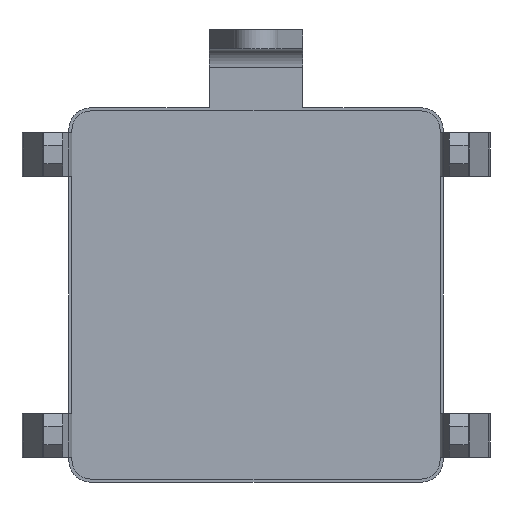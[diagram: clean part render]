
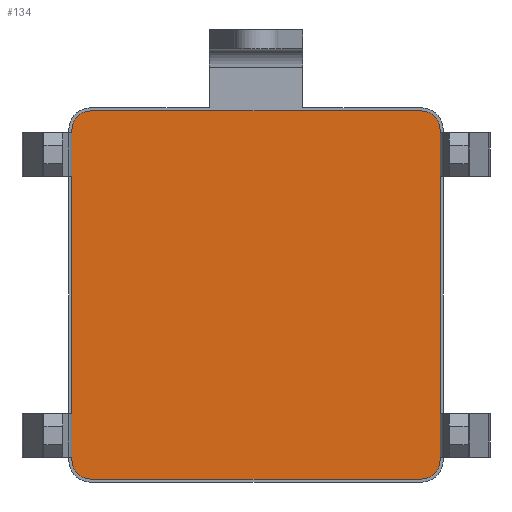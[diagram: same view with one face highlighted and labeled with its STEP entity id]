
A CAD part, front view. The second image highlights one B-rep face of the part: STEP entity #134.
In plain terms, the highlighted planar face has unit normal (0, -1, 0).
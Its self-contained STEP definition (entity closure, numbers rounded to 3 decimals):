
#1 = VERTEX_POINT ( 'NONE', #1662 ) ;
#2 = EDGE_CURVE ( 'NONE', #187, #1, #1611, .T. ) ;
#3 = VERTEX_POINT ( 'NONE', #1607 ) ;
#14 = EDGE_CURVE ( 'NONE', #25, #15, #1761, .T. ) ;
#15 = VERTEX_POINT ( 'NONE', #1757 ) ;
#25 = VERTEX_POINT ( 'NONE', #1725 ) ;
#29 = EDGE_CURVE ( 'NONE', #30, #31, #1720, .T. ) ;
#30 = VERTEX_POINT ( 'NONE', #1715 ) ;
#31 = VERTEX_POINT ( 'NONE', #1714 ) ;
#33 = EDGE_CURVE ( 'NONE', #37, #1286, #1834, .T. ) ;
#36 = VERTEX_POINT ( 'NONE', #1830 ) ;
#37 = VERTEX_POINT ( 'NONE', #1829 ) ;
#57 = ORIENTED_EDGE ( 'NONE', *, *, #33, .F. ) ;
#58 = ORIENTED_EDGE ( 'NONE', *, *, #59, .F. ) ;
#59 = EDGE_CURVE ( 'NONE', #15, #37, #1875, .T. ) ;
#60 = ORIENTED_EDGE ( 'NONE', *, *, #14, .F. ) ;
#61 = EDGE_CURVE ( 'NONE', #1, #25, #1802, .T. ) ;
#64 = ORIENTED_EDGE ( 'NONE', *, *, #66, .F. ) ;
#65 = ORIENTED_EDGE ( 'NONE', *, *, #158, .F. ) ;
#66 = EDGE_CURVE ( 'NONE', #86, #30, #1797, .T. ) ;
#73 = VERTEX_POINT ( 'NONE', #1866 ) ;
#74 = ORIENTED_EDGE ( 'NONE', *, *, #116, .F. ) ;
#75 = ORIENTED_EDGE ( 'NONE', *, *, #76, .F. ) ;
#76 = EDGE_CURVE ( 'NONE', #1286, #1446, #1865, .T. ) ;
#86 = VERTEX_POINT ( 'NONE', #1847 ) ;
#105 = EDGE_CURVE ( 'NONE', #3, #187, #4916, .T. ) ;
#116 = EDGE_CURVE ( 'NONE', #1446, #170, #4896, .T. ) ;
#126 = EDGE_CURVE ( 'NONE', #31, #169, #4949, .T. ) ;
#127 = ORIENTED_EDGE ( 'NONE', *, *, #128, .F. ) ;
#128 = EDGE_CURVE ( 'NONE', #180, #36, #4945, .T. ) ;
#129 = ORIENTED_EDGE ( 'NONE', *, *, #172, .F. ) ;
#130 = ORIENTED_EDGE ( 'NONE', *, *, #131, .F. ) ;
#131 = EDGE_CURVE ( 'NONE', #169, #73, #4941, .T. ) ;
#132 = ORIENTED_EDGE ( 'NONE', *, *, #126, .F. ) ;
#134 = ADVANCED_FACE ( 'NONE', ( #4936 ), #4831, .T. ) ;
#135 = EDGE_LOOP ( 'NONE', ( #136, #64, #65, #74, #75, #57, #58, #60, #176, #177, #178, #179, #127, #129, #130, #132 ) ) ;
#136 = ORIENTED_EDGE ( 'NONE', *, *, #29, .F. ) ;
#158 = EDGE_CURVE ( 'NONE', #170, #86, #4814, .T. ) ;
#169 = VERTEX_POINT ( 'NONE', #4780 ) ;
#170 = VERTEX_POINT ( 'NONE', #4779 ) ;
#172 = EDGE_CURVE ( 'NONE', #73, #180, #4778, .T. ) ;
#176 = ORIENTED_EDGE ( 'NONE', *, *, #61, .F. ) ;
#177 = ORIENTED_EDGE ( 'NONE', *, *, #2, .F. ) ;
#178 = ORIENTED_EDGE ( 'NONE', *, *, #105, .F. ) ;
#179 = ORIENTED_EDGE ( 'NONE', *, *, #184, .F. ) ;
#180 = VERTEX_POINT ( 'NONE', #4772 ) ;
#184 = EDGE_CURVE ( 'NONE', #36, #3, #4769, .T. ) ;
#187 = VERTEX_POINT ( 'NONE', #2137 ) ;
#1286 = VERTEX_POINT ( 'NONE', #3640 ) ;
#1446 = VERTEX_POINT ( 'NONE', #4209 ) ;
#1607 = CARTESIAN_POINT ( 'NONE',  ( -2.95, 0., 2.65 ) ) ;
#1608 = DIRECTION ( 'NONE',  ( 1., 0., 0. ) ) ;
#1609 = VECTOR ( 'NONE', #1608, 1000. ) ;
#1610 = CARTESIAN_POINT ( 'NONE',  ( -2.65, 0., 2.95 ) ) ;
#1611 = LINE ( 'NONE', #1610, #1609 ) ;
#1662 = CARTESIAN_POINT ( 'NONE',  ( 2.65, 0., 2.95 ) ) ;
#1714 = CARTESIAN_POINT ( 'NONE',  ( -2.95, 0., -2.65 ) ) ;
#1715 = CARTESIAN_POINT ( 'NONE',  ( -2.65, 0., -2.95 ) ) ;
#1716 = DIRECTION ( 'NONE',  ( 0., 0., -1. ) ) ;
#1717 = DIRECTION ( 'NONE',  ( 0., 1., 0. ) ) ;
#1718 = CARTESIAN_POINT ( 'NONE',  ( -2.65, 0., -2.65 ) ) ;
#1719 = AXIS2_PLACEMENT_3D ( 'NONE', #1718, #1717, #1716 ) ;
#1720 = CIRCLE ( 'NONE', #1719, 0.3 ) ;
#1725 = CARTESIAN_POINT ( 'NONE',  ( 2.95, 0., 2.65 ) ) ;
#1757 = CARTESIAN_POINT ( 'NONE',  ( 2.95, 0., 2.6 ) ) ;
#1758 = DIRECTION ( 'NONE',  ( 0., 0., -1. ) ) ;
#1759 = VECTOR ( 'NONE', #1758, 1000. ) ;
#1760 = CARTESIAN_POINT ( 'NONE',  ( 2.95, 0., 2.65 ) ) ;
#1761 = LINE ( 'NONE', #1760, #1759 ) ;
#1794 = DIRECTION ( 'NONE',  ( -1., 0., 0. ) ) ;
#1795 = VECTOR ( 'NONE', #1794, 1000. ) ;
#1796 = CARTESIAN_POINT ( 'NONE',  ( -2.65, 0., -2.95 ) ) ;
#1797 = LINE ( 'NONE', #1796, #1795 ) ;
#1799 = DIRECTION ( 'NONE',  ( 0., 0., 1. ) ) ;
#1800 = DIRECTION ( 'NONE',  ( 0., 1., 0. ) ) ;
#1801 = AXIS2_PLACEMENT_3D ( 'NONE', #1871, #1800, #1799 ) ;
#1802 = CIRCLE ( 'NONE', #1801, 0.3 ) ;
#1829 = CARTESIAN_POINT ( 'NONE',  ( 2.95, 0., 1.9 ) ) ;
#1830 = CARTESIAN_POINT ( 'NONE',  ( -2.95, 0., 2.6 ) ) ;
#1831 = DIRECTION ( 'NONE',  ( 0., 0., -1. ) ) ;
#1832 = VECTOR ( 'NONE', #1831, 1000. ) ;
#1833 = CARTESIAN_POINT ( 'NONE',  ( 2.95, 0., 2.65 ) ) ;
#1834 = LINE ( 'NONE', #1833, #1832 ) ;
#1847 = CARTESIAN_POINT ( 'NONE',  ( 2.65, 0., -2.95 ) ) ;
#1862 = DIRECTION ( 'NONE',  ( 0., 0., -1. ) ) ;
#1863 = VECTOR ( 'NONE', #1862, 1000. ) ;
#1864 = CARTESIAN_POINT ( 'NONE',  ( 2.95, 0., 2.65 ) ) ;
#1865 = LINE ( 'NONE', #1864, #1863 ) ;
#1866 = CARTESIAN_POINT ( 'NONE',  ( -2.95, 0., -1.9 ) ) ;
#1871 = CARTESIAN_POINT ( 'NONE',  ( 2.65, 0., 2.65 ) ) ;
#1872 = DIRECTION ( 'NONE',  ( 0., 0., -1. ) ) ;
#1873 = VECTOR ( 'NONE', #1872, 1000. ) ;
#1874 = CARTESIAN_POINT ( 'NONE',  ( 2.95, 0., 2.65 ) ) ;
#1875 = LINE ( 'NONE', #1874, #1873 ) ;
#2084 = DIRECTION ( 'NONE',  ( 0., 0., 1. ) ) ;
#2085 = VECTOR ( 'NONE', #2084, 1000. ) ;
#2086 = CARTESIAN_POINT ( 'NONE',  ( -2.95, 0., 2.65 ) ) ;
#2137 = CARTESIAN_POINT ( 'NONE',  ( -2.65, 0., 2.95 ) ) ;
#3640 = CARTESIAN_POINT ( 'NONE',  ( 2.95, 0., -1.9 ) ) ;
#4209 = CARTESIAN_POINT ( 'NONE',  ( 2.95, 0., -2.6 ) ) ;
#4769 = LINE ( 'NONE', #2086, #2085 ) ;
#4772 = CARTESIAN_POINT ( 'NONE',  ( -2.95, 0., 1.9 ) ) ;
#4775 = DIRECTION ( 'NONE',  ( 0., 0., 1. ) ) ;
#4776 = VECTOR ( 'NONE', #4775, 1000. ) ;
#4777 = CARTESIAN_POINT ( 'NONE',  ( -2.95, 0., 2.65 ) ) ;
#4778 = LINE ( 'NONE', #4777, #4776 ) ;
#4779 = CARTESIAN_POINT ( 'NONE',  ( 2.95, 0., -2.65 ) ) ;
#4780 = CARTESIAN_POINT ( 'NONE',  ( -2.95, 0., -2.6 ) ) ;
#4806 = DIRECTION ( 'NONE',  ( 0., 0., -1. ) ) ;
#4807 = DIRECTION ( 'NONE',  ( 0., 1., 0. ) ) ;
#4808 = CARTESIAN_POINT ( 'NONE',  ( 2.65, 0., -2.65 ) ) ;
#4809 = AXIS2_PLACEMENT_3D ( 'NONE', #4808, #4807, #4806 ) ;
#4814 = CIRCLE ( 'NONE', #4809, 0.3 ) ;
#4827 = DIRECTION ( 'NONE',  ( 0., 0., -1. ) ) ;
#4828 = DIRECTION ( 'NONE',  ( 0., -1., 0. ) ) ;
#4829 = CARTESIAN_POINT ( 'NONE',  ( -2.65, 0., -2.65 ) ) ;
#4830 = AXIS2_PLACEMENT_3D ( 'NONE', #4829, #4828, #4827 ) ;
#4831 = PLANE ( 'NONE',  #4830 ) ;
#4893 = DIRECTION ( 'NONE',  ( 0., 0., -1. ) ) ;
#4894 = VECTOR ( 'NONE', #4893, 1000. ) ;
#4895 = CARTESIAN_POINT ( 'NONE',  ( 2.95, 0., 2.65 ) ) ;
#4896 = LINE ( 'NONE', #4895, #4894 ) ;
#4908 = DIRECTION ( 'NONE',  ( 0., 0., -1. ) ) ;
#4909 = DIRECTION ( 'NONE',  ( 0., 1., 0. ) ) ;
#4910 = CARTESIAN_POINT ( 'NONE',  ( -2.65, 0., 2.65 ) ) ;
#4911 = AXIS2_PLACEMENT_3D ( 'NONE', #4910, #4909, #4908 ) ;
#4916 = CIRCLE ( 'NONE', #4911, 0.3 ) ;
#4936 = FACE_OUTER_BOUND ( 'NONE', #135, .T. ) ;
#4937 = DIRECTION ( 'NONE',  ( 0., 0., 1. ) ) ;
#4938 = VECTOR ( 'NONE', #4937, 1000. ) ;
#4939 = CARTESIAN_POINT ( 'NONE',  ( -2.95, 0., 2.65 ) ) ;
#4941 = LINE ( 'NONE', #4939, #4938 ) ;
#4942 = DIRECTION ( 'NONE',  ( 0., 0., 1. ) ) ;
#4943 = VECTOR ( 'NONE', #4942, 1000. ) ;
#4944 = CARTESIAN_POINT ( 'NONE',  ( -2.95, 0., 2.65 ) ) ;
#4945 = LINE ( 'NONE', #4944, #4943 ) ;
#4946 = DIRECTION ( 'NONE',  ( 0., 0., 1. ) ) ;
#4947 = VECTOR ( 'NONE', #4946, 1000. ) ;
#4948 = CARTESIAN_POINT ( 'NONE',  ( -2.95, 0., 2.65 ) ) ;
#4949 = LINE ( 'NONE', #4948, #4947 ) ;
